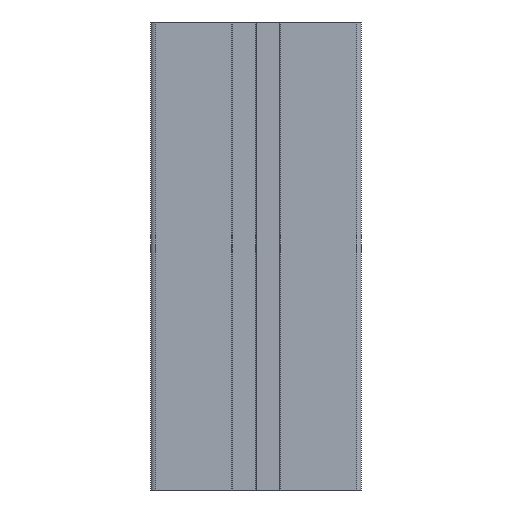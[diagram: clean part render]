
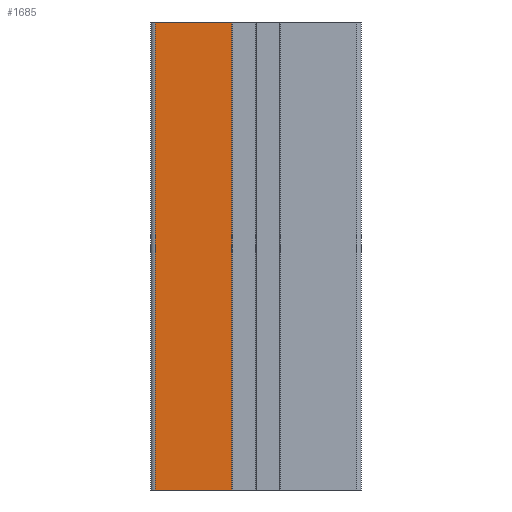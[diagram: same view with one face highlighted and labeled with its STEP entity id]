
A CAD part, front view. The second image highlights one B-rep face of the part: STEP entity #1685.
In plain terms, the highlighted planar face has unit normal (0, -1, 0).
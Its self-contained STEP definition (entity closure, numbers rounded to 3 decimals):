
#116 = EDGE_LOOP ( 'NONE', ( #3478, #1752, #1431, #4825 ) ) ;
#812 = VECTOR ( 'NONE', #878, 1000. ) ;
#878 = DIRECTION ( 'NONE',  ( 0., 0., 1. ) ) ;
#907 = EDGE_CURVE ( 'NONE', #1534, #2336, #1657, .T. ) ;
#913 = CARTESIAN_POINT ( 'NONE',  ( -21.5, -22.5, -100. ) ) ;
#928 = CARTESIAN_POINT ( 'NONE',  ( -21.5, -22.5, 0. ) ) ;
#974 = EDGE_CURVE ( 'NONE', #1249, #2615, #1352, .T. ) ;
#1040 = CARTESIAN_POINT ( 'NONE',  ( 22.5, -22.5, -100. ) ) ;
#1209 = VECTOR ( 'NONE', #1451, 1000. ) ;
#1219 = CARTESIAN_POINT ( 'NONE',  ( -21.5, -22.5, -100. ) ) ;
#1249 = VERTEX_POINT ( 'NONE', #913 ) ;
#1343 = FACE_OUTER_BOUND ( 'NONE', #116, .T. ) ;
#1348 = CARTESIAN_POINT ( 'NONE',  ( -5.2, -22.5, 0. ) ) ;
#1352 = LINE ( 'NONE', #1040, #1209 ) ;
#1409 = DIRECTION ( 'NONE',  ( 0., -1., 0. ) ) ;
#1431 = ORIENTED_EDGE ( 'NONE', *, *, #907, .F. ) ;
#1451 = DIRECTION ( 'NONE',  ( 1., 0., 0. ) ) ;
#1534 = VERTEX_POINT ( 'NONE', #928 ) ;
#1540 = VECTOR ( 'NONE', #2935, 1000. ) ;
#1657 = LINE ( 'NONE', #3960, #1540 ) ;
#1685 = ADVANCED_FACE ( 'NONE', ( #1343 ), #2543, .T. ) ;
#1752 = ORIENTED_EDGE ( 'NONE', *, *, #3000, .T. ) ;
#1898 = LINE ( 'NONE', #3488, #812 ) ;
#2336 = VERTEX_POINT ( 'NONE', #1348 ) ;
#2543 = PLANE ( 'NONE',  #4076 ) ;
#2615 = VERTEX_POINT ( 'NONE', #3268 ) ;
#2914 = EDGE_CURVE ( 'NONE', #1534, #1249, #4113, .T. ) ;
#2935 = DIRECTION ( 'NONE',  ( 1., 0., 0. ) ) ;
#3000 = EDGE_CURVE ( 'NONE', #2615, #2336, #1898, .T. ) ;
#3197 = VECTOR ( 'NONE', #4506, 1000. ) ;
#3253 = CARTESIAN_POINT ( 'NONE',  ( 22.5, -22.5, -100. ) ) ;
#3268 = CARTESIAN_POINT ( 'NONE',  ( -5.2, -22.5, -100. ) ) ;
#3478 = ORIENTED_EDGE ( 'NONE', *, *, #974, .T. ) ;
#3488 = CARTESIAN_POINT ( 'NONE',  ( -5.2, -22.5, 0. ) ) ;
#3953 = DIRECTION ( 'NONE',  ( 1., 0., 0. ) ) ;
#3960 = CARTESIAN_POINT ( 'NONE',  ( 22.5, -22.5, 0. ) ) ;
#4076 = AXIS2_PLACEMENT_3D ( 'NONE', #3253, #1409, #3953 ) ;
#4113 = LINE ( 'NONE', #1219, #3197 ) ;
#4506 = DIRECTION ( 'NONE',  ( 0., 0., -1. ) ) ;
#4825 = ORIENTED_EDGE ( 'NONE', *, *, #2914, .T. ) ;
